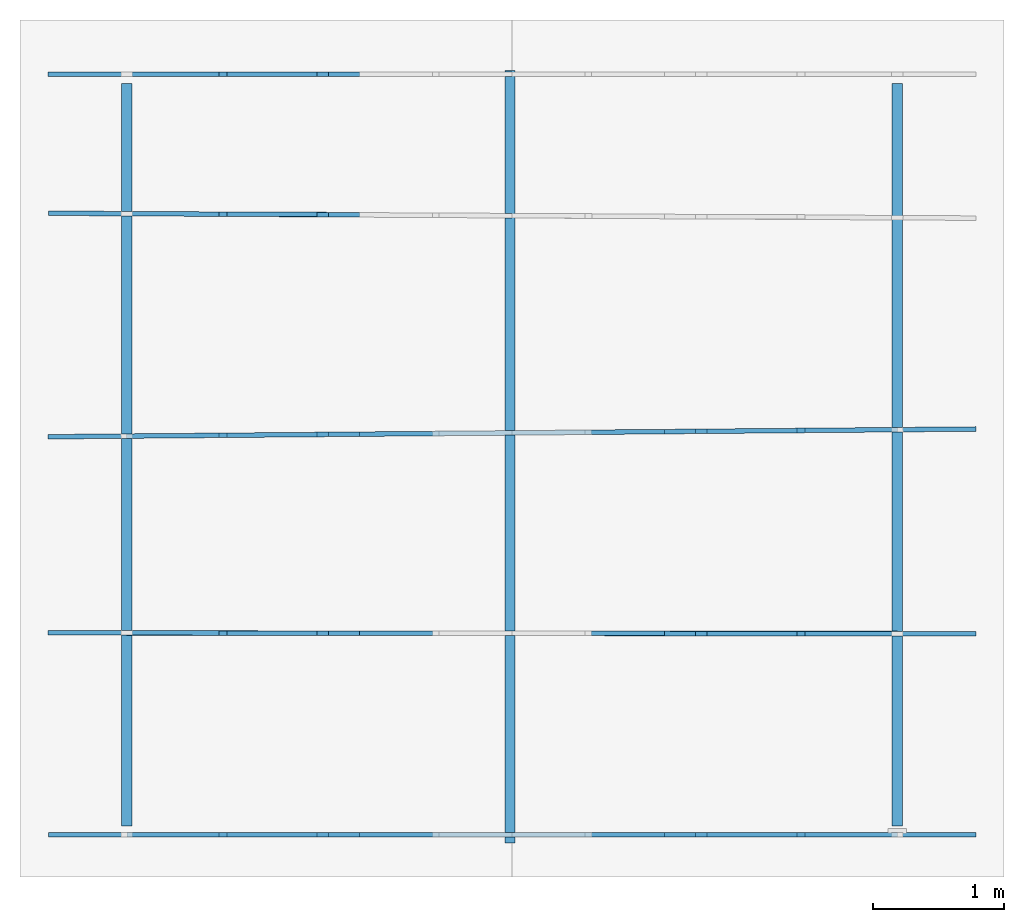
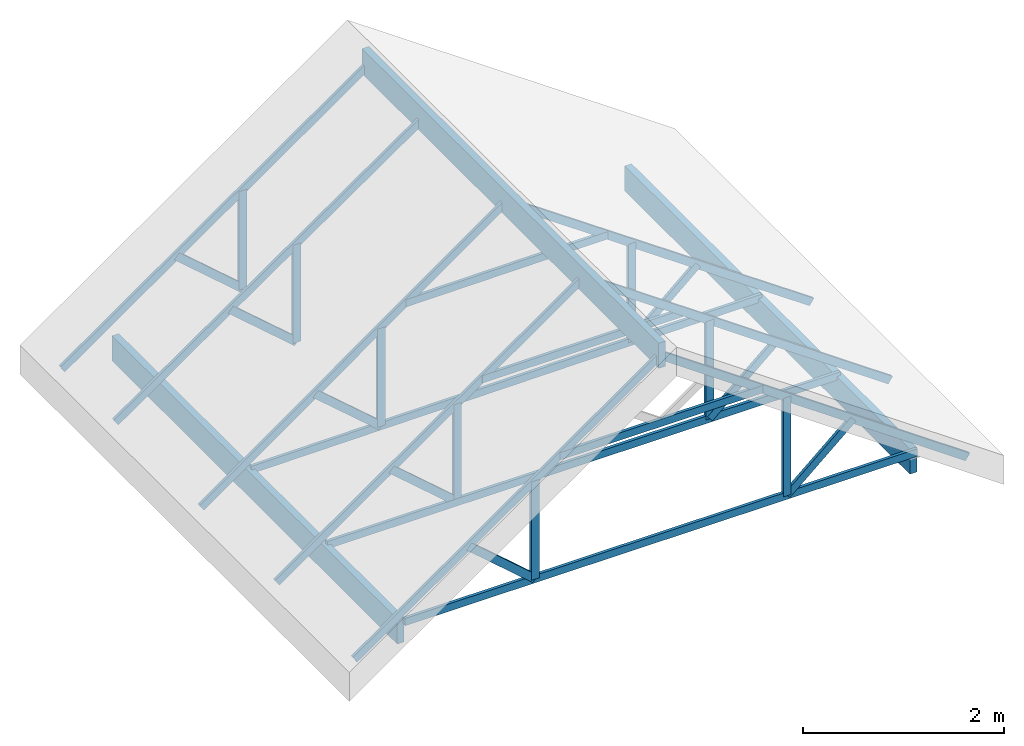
# One storey, part 1 of 2: 30 members, 3 beams, 5 elements without a shape of their own.
"""IFC2X3 building model written with IfcOpenShell, lengths in metres."""

from ifc_helpers import new_model, entity, si_unit, converted_unit, derived_unit, direction, frame, frame_2d, origin, origin_2d_with_axis, place, context, subcontext, project, spatial, rectangle, extrude, clip, halfspace, source, transform, mapped, material, material_list, type_object, type_shapes, element, aggregate, save


model = new_model("IFC2X3")

# Units and contexts
model_context = context("Model", 3, precision=1e-05, world=origin(), true_north=direction((6.123233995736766e-17, 1.0)))
body_context = subcontext(model_context, "Body", "Model", "MODEL_VIEW")
ifc_project = project(units=[si_unit("LENGTHUNIT", "METRE"), si_unit("AREAUNIT", "SQUARE_METRE"), converted_unit("PLANEANGLEUNIT", "DEGREE", entity("IfcPlaneAngleMeasure", 0.017453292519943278), si_unit("PLANEANGLEUNIT", "RADIAN"), dimensions=[0, 0, 0, 0, 0, 0, 0]), derived_unit("THERMALTRANSMITTANCEUNIT", [(si_unit("MASSUNIT", "GRAM", prefix="KILO"), 1), (si_unit("THERMODYNAMICTEMPERATUREUNIT", "KELVIN"), -1), (si_unit("TIMEUNIT", "SECOND"), -3)])], contexts=[model_context])

# Site, building, storey
site_placement = place(None, origin())
site = spatial("IfcSite", under=ifc_project, at=site_placement, Name="Default", CompositionType="ELEMENT")
building_placement = place(site_placement, origin())
building = spatial("IfcBuilding", under=site, at=building_placement, CompositionType="ELEMENT")
storey_placement = place(building_placement, frame((0.0, 0.0, 5.799999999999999)))
storey = spatial("IfcBuildingStorey", under=building, at=storey_placement, Name="Roof", CompositionType="ELEMENT", Elevation=5.799999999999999)

# Beam
ifc_material_1 = material(Name="Softwood, Lumber")
beam_type_1 = type_object("IfcBeamType", Name="M_Glulam-Western Species:79X305", PredefinedType="BEAM")
beam_1_placement = place(storey_placement, frame((0.5080759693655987, -2.205749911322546, 2.399999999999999), z_axis=(0.0, 0.0, 1.0), x_axis=(0.0, 1.0, 0.0)))
element("IfcBeam", 1, at=beam_1_placement, inside=storey, type_object=beam_type_1, material=ifc_material_1, Name="M_Glulam-Western Species:79X305", ObjectType="M_Glulam-Western Species:79X305", context=body_context, shape_type="SweptSolid", body=[
    extrude(rectangle(XDim=0.305, YDim=0.07900000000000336, at=frame_2d((0.0, -6.938893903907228e-17), x_axis=(1.0, 0.0))), frame((0.0, 0.0, -0.15250000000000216), z_axis=(1.0, 0.0, 0.0), x_axis=(0.0, 0.0, -1.0)), (0.0, 0.0, 1.0), 5.902651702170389),
])

# Assembly, members
assembly_1_placement = place(storey_placement, origin())
assembly_1 = element("IfcElementAssembly", 2, at=assembly_1_placement, inside=storey, Name="M_Truss_Common Truss Attic Room 1L+1R_1B:W35_TCH90_VW90_DW90_BCH90", ObjectType="M_Truss_Common Truss Attic Room 1L+1R_1B:W35_TCH90_VW90_DW90_BCH90", AssemblyPlace="NOTDEFINED", PredefinedType="TRUSS")
ifc_material_2 = material(Name="Timber - C20")
ifc_material_3 = material(Name="<Unnamed>")
ifc_material_list = material_list([ifc_material_3, ifc_material_2])
member_type_1 = type_object("IfcMemberType", Name="M_Truss_Wood Chord:35x90", PredefinedType="CHORD", material=ifc_material_list)
shared_shape_1 = source(origin(), body_context, "Body", "SweptSolid", [
    clip(extrude(rectangle(XDim=0.09000000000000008, YDim=0.03500000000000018, at=frame_2d((6.765421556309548e-17, 4.475586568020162e-16), x_axis=(0.0, 1.0))), frame((-2.9960931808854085, 0.8972701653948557, 5.543013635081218), z_axis=(0.819123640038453, 0.006821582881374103, 0.5735764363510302), x_axis=(-0.008327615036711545, 0.9999653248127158, 0.0)), (0.0, 0.0, 1.0), 4.327770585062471), halfspace(frame((0.5230759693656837, 0.9265774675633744, 8.062182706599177), z_axis=(0.9999653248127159, 0.008327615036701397, 0.0), x_axis=(0.008327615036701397, -0.9999653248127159, 0.0)), False)),
])
type_shapes(member_type_1, [shared_shape_1])
member_1_placement = place(assembly_1_placement, frame((0.0, 0.0, -5.799999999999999)))
member_1 = element("IfcMember", 3, at=member_1_placement, type_object=member_type_1, material=ifc_material_2, Name="M_Truss_Wood Chord:35x90", ObjectType="M_Truss_Wood Chord:35x90", context=body_context, shape_type="MappedRepresentation", body=[
    mapped(shared_shape_1, transform((0.0, 0.0, 0.0), scale=1.0)),
])
member_type_2 = type_object("IfcMemberType", Name="M_Truss_Wood Chord:35x90", PredefinedType="CHORD", material=ifc_material_list)
shared_shape_2 = source(origin(), body_context, "Body", "SweptSolid", [
    clip(extrude(rectangle(XDim=0.09000000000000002, YDim=0.03500000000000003, at=frame_2d((9.71445146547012e-17, -6.591949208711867e-17), x_axis=(1.0, 0.0))), frame((0.4972659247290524, 0.9263625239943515, 8.025320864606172), z_axis=(0.8191236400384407, 0.006821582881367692, -0.5735764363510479), x_axis=(-0.5735565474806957, -0.0047765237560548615, -0.8191520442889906)), (0.0, 0.0, 1.0), 4.3277705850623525), halfspace(frame((0.5230759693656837, 0.9265774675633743, 8.062182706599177), z_axis=(-0.9999653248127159, -0.008327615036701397, 0.0), x_axis=(0.008327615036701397, -0.9999653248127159, 0.0)), False)),
])
type_shapes(member_type_2, [shared_shape_2])
member_2_placement = place(assembly_1_placement, frame((0.0, 0.0, -5.799999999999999)))
member_2 = element("IfcMember", 4, at=member_2_placement, type_object=member_type_2, material=ifc_material_2, Name="M_Truss_Wood Chord:35x90", ObjectType="M_Truss_Wood Chord:35x90", context=body_context, shape_type="MappedRepresentation", body=[
    mapped(shared_shape_2, transform((0.0, 0.0, 0.0), scale=1.0)),
])
member_type_3 = type_object("IfcMemberType", Name="M_Truss_Wood Web:35x90", PredefinedType="BRACE", material=ifc_material_2)
shared_shape_3 = source(origin(), body_context, "Body", "SweptSolid", [
    extrude(rectangle(XDim=1.1942295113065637, YDim=0.035, at=origin_2d_with_axis()), frame((0.0, 0.0, -0.045)), (0.0, 0.0, 1.0), 0.08999999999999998),
])
type_shapes(member_type_3, [shared_shape_3])
member_3_placement = place(assembly_1_placement, frame((-0.9236139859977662, 0.9145295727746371, 0.5971147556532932), z_axis=(0.999965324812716, 0.00832761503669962, 0.0), x_axis=(0.0, 0.0, 1.0)))
member_3 = element("IfcMember", 5, at=member_3_placement, type_object=member_type_3, material=ifc_material_2, Name="M_Truss_Wood Web:35x90", ObjectType="M_Truss_Wood Web:35x90", context=body_context, shape_type="MappedRepresentation", body=[
    mapped(shared_shape_3, transform((0.0, 0.0, 0.0), scale=1.0)),
])
member_4_placement = place(assembly_1_placement, frame((1.9697659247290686, 0.9386253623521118, 0.5971147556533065), z_axis=(0.999965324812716, 0.00832761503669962, 0.0), x_axis=(0.0, 0.0, 1.0)))
member_4 = element("IfcMember", 6, at=member_4_placement, type_object=member_type_3, material=ifc_material_2, Name="M_Truss_Wood Web:35x90", ObjectType="M_Truss_Wood Web:35x90", context=body_context, shape_type="MappedRepresentation", body=[
    mapped(shared_shape_3, transform((0.0, 0.0, 0.0), scale=1.0)),
])

assembly_2_placement = place(storey_placement, origin())
assembly_2 = element("IfcElementAssembly", 7, at=assembly_2_placement, inside=storey, Name="M_Truss_Common Truss Attic Room 1L+1R_1B:W35_TCH90_VW90_DW90_BCH90", ObjectType="M_Truss_Common Truss Attic Room 1L+1R_1B:W35_TCH90_VW90_DW90_BCH90", AssemblyPlace="NOTDEFINED", PredefinedType="TRUSS")
member_type_4 = type_object("IfcMemberType", Name="M_Truss_Wood Chord:35x90", PredefinedType="CHORD", material=ifc_material_list)
shared_shape_4 = source(origin(), body_context, "Body", "SweptSolid", [
    clip(extrude(rectangle(XDim=0.09000000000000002, YDim=0.03500000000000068, at=frame_2d((0.0, 0.0), x_axis=(0.0, 1.0))), frame((-2.9951051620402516, 2.6050693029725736, 5.543013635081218), z_axis=(0.8191407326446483, -0.004304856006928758, 0.5735764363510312), x_axis=(0.005255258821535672, 0.9999861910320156, 0.0)), (0.0, 0.0, 1.0), 4.327085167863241), halfspace(frame((0.5235759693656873, 2.5865774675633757, 8.061789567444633), z_axis=(0.9999861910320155, -0.005255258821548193, 0.0), x_axis=(0.005255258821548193, 0.9999861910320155, 0.0)), False)),
])
type_shapes(member_type_4, [shared_shape_4])
member_5_placement = place(assembly_2_placement, frame((0.0, 0.0, -5.799999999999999)))
member_5 = element("IfcMember", 8, at=member_5_placement, type_object=member_type_4, material=ifc_material_2, Name="M_Truss_Wood Chord:35x90", ObjectType="M_Truss_Wood Chord:35x90", context=body_context, shape_type="MappedRepresentation", body=[
    mapped(shared_shape_4, transform((0.0, 0.0, 0.0), scale=1.0)),
])
member_type_5 = type_object("IfcMemberType", Name="M_Truss_Wood Web:35x90", PredefinedType="BRACE", material=ifc_material_2)
shared_shape_5 = source(origin(), body_context, "Body", "SweptSolid", [
    extrude(rectangle(XDim=1.194032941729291, YDim=0.035, at=origin_2d_with_axis()), frame((0.0, 0.0, -0.045)), (0.0, 0.0, 1.0), 0.08999999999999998),
])
type_shapes(member_type_5, [shared_shape_5])
member_6_placement = place(assembly_2_placement, frame((-0.9228634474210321, 2.5941789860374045, 0.5970164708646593), z_axis=(0.9999861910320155, -0.0052552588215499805, 0.0), x_axis=(0.0, 0.0, 1.0)))
member_6 = element("IfcMember", 9, at=member_6_placement, type_object=member_type_5, material=ifc_material_2, Name="M_Truss_Wood Web:35x90", ObjectType="M_Truss_Wood Web:35x90", context=body_context, shape_type="MappedRepresentation", body=[
    mapped(shared_shape_5, transform((0.0, 0.0, 0.0), scale=1.0)),
])

assembly_3_placement = place(storey_placement, origin())
assembly_3 = element("IfcElementAssembly", 10, at=assembly_3_placement, inside=storey, Name="M_Truss_Common Truss Attic Room 1L+1R_1B:W35_TCH90_VW90_DW90_BCH90", ObjectType="M_Truss_Common Truss Attic Room 1L+1R_1B:W35_TCH90_VW90_DW90_BCH90", AssemblyPlace="NOTDEFINED", PredefinedType="TRUSS")
member_type_6 = type_object("IfcMemberType", Name="M_Truss_Wood Chord:35x90", PredefinedType="CHORD", material=ifc_material_list)
shared_shape_6 = source(origin(), body_context, "Body", "SweptSolid", [
    clip(extrude(rectangle(XDim=0.09000000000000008, YDim=0.03499999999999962, at=frame_2d((-5.412337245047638e-16, 1.5265566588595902e-16), x_axis=(0.0, 1.0))), frame((-2.996113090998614, 3.667051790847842, 5.543013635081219), z_axis=(0.8191520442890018, 0.0, 0.5735764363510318), x_axis=(0.0, -1.0, 0.0)), (0.0, 0.0, 1.0), 4.327645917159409), halfspace(frame((0.5230759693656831, 3.667051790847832, 8.062111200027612), z_axis=(1.0, 0.0, 0.0), x_axis=(0.0, -1.0, 0.0)), False)),
])
type_shapes(member_type_6, [shared_shape_6])
member_7_placement = place(assembly_3_placement, frame((0.0, 0.0, -5.799999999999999)))
member_7 = element("IfcMember", 11, at=member_7_placement, type_object=member_type_6, material=ifc_material_2, Name="M_Truss_Wood Chord:35x90", ObjectType="M_Truss_Wood Chord:35x90", context=body_context, shape_type="MappedRepresentation", body=[
    mapped(shared_shape_6, transform((0.0, 0.0, 0.0), scale=1.0)),
])
member_type_7 = type_object("IfcMemberType", Name="M_Truss_Wood Web:35x90", PredefinedType="BRACE", material=ifc_material_2)
shared_shape_7 = source(origin(), body_context, "Body", "SweptSolid", [
    extrude(rectangle(XDim=1.1941937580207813, YDim=0.035, at=origin_2d_with_axis()), frame((0.0, 0.0, -0.045)), (0.0, 0.0, 1.0), 0.08999999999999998),
])
type_shapes(member_type_7, [shared_shape_7])
member_8_placement = place(assembly_3_placement, frame((-0.9236130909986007, 3.667051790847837, 0.5970968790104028), z_axis=(1.0, 0.0, 0.0), x_axis=(0.0, 0.0, 1.0)))
member_8 = element("IfcMember", 12, at=member_8_placement, type_object=member_type_7, material=ifc_material_2, Name="M_Truss_Wood Web:35x90", ObjectType="M_Truss_Wood Web:35x90", context=body_context, shape_type="MappedRepresentation", body=[
    mapped(shared_shape_7, transform((0.0, 0.0, 0.0), scale=1.0)),
])

# Beams
beam_type_2 = type_object("IfcBeamType", Name="M_Glulam-Western Species:79X305", PredefinedType="NOTDEFINED")
beam_2_placement = place(storey_placement, frame((3.4680759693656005, -2.1457499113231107, 0.0), z_axis=(0.0, 0.0, 1.0), x_axis=(0.0, 1.0, 0.0)))
element("IfcBeam", 13, at=beam_2_placement, inside=storey, type_object=beam_type_2, material=ifc_material_1, Name="M_Glulam-Western Species:79X305", ObjectType="M_Glulam-Western Species:79X305", context=body_context, shape_type="SweptSolid", body=[
    extrude(rectangle(XDim=0.305, YDim=0.07900000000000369, at=frame_2d((0.0, -2.706168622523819e-16), x_axis=(1.0, 0.0))), frame((0.06985000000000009, 0.0, -0.15250000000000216), z_axis=(1.0, 0.0, 0.0), x_axis=(0.0, 0.0, -1.0)), (0.0, 0.0, 1.0), 5.673101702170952),
])
beam_3_placement = place(storey_placement, frame((-2.4209240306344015, -2.14574991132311, 0.0), z_axis=(0.0, 0.0, 1.0), x_axis=(0.0, 1.0, 0.0)))
element("IfcBeam", 14, at=beam_3_placement, inside=storey, type_object=beam_type_2, material=ifc_material_1, Name="M_Glulam-Western Species:79X305", ObjectType="M_Glulam-Western Species:79X305", context=body_context, shape_type="SweptSolid", body=[
    extrude(rectangle(XDim=0.30499999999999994, YDim=0.07900000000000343, at=frame_2d((0.0, -1.3530843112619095e-16), x_axis=(1.0, 0.0))), frame((0.06984999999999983, 0.0, -0.15250000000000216), z_axis=(1.0, 0.0, 0.0), x_axis=(0.0, 0.0, -1.0)), (0.0, 0.0, 1.0), 5.673101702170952),
])

# Assembly, members
assembly_4_placement = place(storey_placement, origin())
assembly_4 = element("IfcElementAssembly", 15, at=assembly_4_placement, inside=storey, Name="M_Truss_Common Truss Attic Room 1L+1R_1B:W35_TCH90_VW90_DW90_BCH90", ObjectType="M_Truss_Common Truss Attic Room 1L+1R_1B:W35_TCH90_VW90_DW90_BCH90", AssemblyPlace="NOTDEFINED", PredefinedType="TRUSS")
member_type_8 = type_object("IfcMemberType", Name="M_Truss_Wood Chord:35x90", PredefinedType="CHORD", material=ifc_material_list)
shared_shape_8 = source(origin(), body_context, "Body", "SweptSolid", [
    clip(extrude(rectangle(XDim=0.09000000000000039, YDim=0.03499999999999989, at=frame_2d((1.3530843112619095e-16, 1.1969591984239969e-15), x_axis=(0.0, 1.0))), frame((-2.9951130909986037, -2.14574991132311, 5.543013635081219), z_axis=(0.8191520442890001, 0.0, 0.5735764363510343), x_axis=(0.0, -1.0, 0.0)), (0.0, 0.0, 1.0), 4.327035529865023), halfspace(frame((0.5235759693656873, -2.1457499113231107, 8.061761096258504), z_axis=(1.0, 0.0, 0.0), x_axis=(0.0, -1.0, 0.0)), False)),
])
type_shapes(member_type_8, [shared_shape_8])
member_9_placement = place(assembly_4_placement, frame((0.0, 0.0, -5.799999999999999)))
member_9 = element("IfcMember", 16, at=member_9_placement, type_object=member_type_8, material=ifc_material_2, Name="M_Truss_Wood Chord:35x90", ObjectType="M_Truss_Wood Chord:35x90", context=body_context, shape_type="MappedRepresentation", body=[
    mapped(shared_shape_8, transform((0.0, 0.0, 0.0), scale=1.0)),
])
member_type_9 = type_object("IfcMemberType", Name="M_Truss_Wood Chord:35x90", PredefinedType="CHORD", material=ifc_material_list)
shared_shape_9 = source(origin(), body_context, "Body", "SweptSolid", [
    clip(extrude(rectangle(XDim=0.09000000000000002, YDim=0.03499999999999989, at=frame_2d((1.3530843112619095e-16, 6.140921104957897e-16), x_axis=(0.0, 1.0))), frame((0.4977650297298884, -2.1457499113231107, 8.024899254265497), z_axis=(0.8191520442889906, 0.0, -0.573576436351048), x_axis=(0.0, 1.0, 0.0)), (0.0, 0.0, 1.0), 4.327035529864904), halfspace(frame((0.5235759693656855, -2.14574991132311, 8.061761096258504), z_axis=(-1.0, 0.0, 0.0), x_axis=(0.0, 1.0, 0.0)), False)),
])
type_shapes(member_type_9, [shared_shape_9])
member_10_placement = place(assembly_4_placement, frame((0.0, 0.0, -5.799999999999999)))
member_10 = element("IfcMember", 17, at=member_10_placement, type_object=member_type_9, material=ifc_material_2, Name="M_Truss_Wood Chord:35x90", ObjectType="M_Truss_Wood Chord:35x90", context=body_context, shape_type="MappedRepresentation", body=[
    mapped(shared_shape_9, transform((0.0, 0.0, 0.0), scale=1.0)),
])
member_type_10 = type_object("IfcMemberType", Name="M_Truss_Wood Chord:35x90", PredefinedType="CHORD", material=ifc_material_2)
shared_shape_10 = source(origin(), body_context, "Body", "SweptSolid", [
    extrude(rectangle(XDim=5.888999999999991, YDim=0.035, at=frame_2d((0.0, -1.734723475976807e-18), x_axis=(1.0, 0.0))), frame((0.0, 0.0, -0.04500000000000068)), (0.0, 0.0, 1.0), 0.09),
])
type_shapes(member_type_10, [shared_shape_10])
member_11_placement = place(assembly_4_placement, frame((0.5235759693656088, -2.14574991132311, 0.0)))
member_11 = element("IfcMember", 18, at=member_11_placement, type_object=member_type_10, material=ifc_material_2, Name="M_Truss_Wood Chord:35x90", ObjectType="M_Truss_Wood Chord:35x90", context=body_context, shape_type="MappedRepresentation", body=[
    mapped(shared_shape_10, transform((0.0, 0.0, 0.0), scale=1.0)),
])
member_type_11 = type_object("IfcMemberType", Name="M_Truss_Wood Chord:35x90", PredefinedType="CHORD", material=ifc_material_2)
shared_shape_11 = source(origin(), body_context, "Body", "SweptSolid", [
    extrude(rectangle(XDim=2.333097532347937, YDim=0.035, at=origin_2d_with_axis()), frame((0.0, 0.0, -0.04500000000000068)), (0.0, 0.0, 1.0), 0.09),
])
type_shapes(member_type_11, [shared_shape_11])
member_12_placement = place(assembly_4_placement, frame((0.5235759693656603, -2.14574991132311, 1.3900000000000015)))
member_12 = element("IfcMember", 19, at=member_12_placement, type_object=member_type_11, material=ifc_material_2, Name="M_Truss_Wood Chord:35x90", ObjectType="M_Truss_Wood Chord:35x90", context=body_context, shape_type="MappedRepresentation", body=[
    mapped(shared_shape_11, transform((0.0, 0.0, 0.0), scale=1.0)),
])
member_type_12 = type_object("IfcMemberType", Name="M_Truss_Wood Web:35x90", PredefinedType="BRACE", material=ifc_material_2)
shared_shape_12 = source(origin(), body_context, "Body", "SweptSolid", [
    extrude(rectangle(XDim=1.1940187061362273, YDim=0.035, at=origin_2d_with_axis()), frame((0.0, 0.0, -0.045)), (0.0, 0.0, 1.0), 0.08999999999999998),
])
type_shapes(member_type_12, [shared_shape_12])
member_13_placement = place(assembly_4_placement, frame((-0.9228630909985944, -2.14574991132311, 0.5970093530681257), z_axis=(1.0, 0.0, 0.0), x_axis=(0.0, 0.0, 1.0)))
member_13 = element("IfcMember", 20, at=member_13_placement, type_object=member_type_12, material=ifc_material_2, Name="M_Truss_Wood Web:35x90", ObjectType="M_Truss_Wood Web:35x90", context=body_context, shape_type="MappedRepresentation", body=[
    mapped(shared_shape_12, transform((0.0, 0.0, 0.0), scale=1.0)),
])
member_14_placement = place(assembly_4_placement, frame((1.9700150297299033, -2.1457499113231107, 0.5970093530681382), z_axis=(1.0, 0.0, 0.0), x_axis=(0.0, 0.0, 1.0)))
member_14 = element("IfcMember", 21, at=member_14_placement, type_object=member_type_12, material=ifc_material_2, Name="M_Truss_Wood Web:35x90", ObjectType="M_Truss_Wood Web:35x90", context=body_context, shape_type="MappedRepresentation", body=[
    mapped(shared_shape_12, transform((0.0, 0.0, 0.0), scale=1.0)),
])
member_type_13 = type_object("IfcMemberType", Name="M_Truss_Wood Web:35x90", PredefinedType="BRACE", material=ifc_material_2)
shared_shape_13 = source(origin(), body_context, "Body", "SweptSolid", [
    extrude(rectangle(XDim=1.0083718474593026, YDim=0.035, at=origin_2d_with_axis()), frame((0.0, 0.0, -0.045)), (0.0, 0.0, 1.0), 0.08999999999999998),
])
type_shapes(member_type_13, [shared_shape_13])
member_15_placement = place(assembly_4_placement, frame((-1.3038310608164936, -2.14574991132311, 0.33025270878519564), z_axis=(-0.6550216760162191, 0.0, -0.7556100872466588), x_axis=(0.7556100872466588, 0.0, -0.6550216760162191)))
member_15 = element("IfcMember", 22, at=member_15_placement, type_object=member_type_13, material=ifc_material_2, Name="M_Truss_Wood Web:35x90", ObjectType="M_Truss_Wood Web:35x90", context=body_context, shape_type="MappedRepresentation", body=[
    mapped(shared_shape_13, transform((0.0, 0.0, 0.0), scale=1.0)),
])
member_type_14 = type_object("IfcMemberType", Name="M_Truss_Wood Web:35x90", PredefinedType="BRACE", material=ifc_material_2)
shared_shape_14 = source(origin(), body_context, "Body", "SweptSolid", [
    extrude(rectangle(XDim=1.008371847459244, YDim=0.035, at=origin_2d_with_axis()), frame((0.0, 0.0, -0.045)), (0.0, 0.0, 1.0), 0.08999999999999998),
])
type_shapes(member_type_14, [shared_shape_14])
member_16_placement = place(assembly_4_placement, frame((2.3509829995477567, -2.1457499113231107, 0.3302527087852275), z_axis=(0.6550216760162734, 0.0, -0.7556100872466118), x_axis=(0.7556100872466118, 0.0, 0.6550216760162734)))
member_16 = element("IfcMember", 23, at=member_16_placement, type_object=member_type_14, material=ifc_material_2, Name="M_Truss_Wood Web:35x90", ObjectType="M_Truss_Wood Web:35x90", context=body_context, shape_type="MappedRepresentation", body=[
    mapped(shared_shape_14, transform((0.0, 0.0, 0.0), scale=1.0)),
])
aggregate(assembly_4, [member_9, member_10, member_11, member_12, member_13, member_14, member_15, member_16])

# Member
member_type_15 = type_object("IfcMemberType", Name="M_Truss_Wood Web:35x90", PredefinedType="BRACE", material=ifc_material_2)
shared_shape_15 = source(origin(), body_context, "Body", "SweptSolid", [
    extrude(rectangle(XDim=1.008523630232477, YDim=0.035, at=origin_2d_with_axis()), frame((0.0, 0.0, -0.045)), (0.0, 0.0, 1.0), 0.08999999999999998),
])
type_shapes(member_type_15, [shared_shape_15])
member_17_placement = place(assembly_3_placement, frame((-1.304643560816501, 3.6670517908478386, 0.33029647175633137), z_axis=(-0.6550098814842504, 0.0, -0.7556203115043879), x_axis=(0.7556203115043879, 0.0, -0.6550098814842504)))
member_17 = element("IfcMember", 24, at=member_17_placement, type_object=member_type_15, material=ifc_material_2, Name="M_Truss_Wood Web:35x90", ObjectType="M_Truss_Wood Web:35x90", context=body_context, shape_type="MappedRepresentation", body=[
    mapped(shared_shape_15, transform((0.0, 0.0, 0.0), scale=1.0)),
])

aggregate(assembly_3, [member_7, member_8, member_17])

member_type_16 = type_object("IfcMemberType", Name="M_Truss_Wood Web:35x90", PredefinedType="BRACE", material=ifc_material_2)
shared_shape_16 = source(origin(), body_context, "Body", "SweptSolid", [
    extrude(rectangle(XDim=1.008384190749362, YDim=0.035, at=origin_2d_with_axis()), frame((0.0, 0.0, -0.045)), (0.0, 0.0, 1.0), 0.08999999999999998),
])
type_shapes(member_type_16, [shared_shape_16])
member_18_placement = place(assembly_2_placement, frame((-1.3038312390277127, 2.5961810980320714, 0.33025626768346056), z_axis=(-0.6550155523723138, 0.0, -0.7556153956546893), x_axis=(0.7556153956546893, 0.0, -0.6550155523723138)))
member_18 = element("IfcMember", 25, at=member_18_placement, type_object=member_type_16, material=ifc_material_2, Name="M_Truss_Wood Web:35x90", ObjectType="M_Truss_Wood Web:35x90", context=body_context, shape_type="MappedRepresentation", body=[
    mapped(shared_shape_16, transform((0.0, 0.0, 0.0), scale=1.0)),
])

aggregate(assembly_2, [member_5, member_6, member_18])

member_type_17 = type_object("IfcMemberType", Name="M_Truss_Wood Web:35x90", PredefinedType="BRACE", material=ifc_material_2)
shared_shape_17 = source(origin(), body_context, "Body", "SweptSolid", [
    extrude(rectangle(XDim=1.0085546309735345, YDim=0.035, at=origin_2d_with_axis()), frame((0.0, 0.0, -0.045)), (0.0, 0.0, 1.0), 0.08999999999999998),
])
type_shapes(member_type_17, [shared_shape_17])
member_19_placement = place(assembly_1_placement, frame((2.3507959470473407, 0.9417985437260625, 0.3303054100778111), z_axis=(0.6549847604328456, 0.005454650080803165, -0.7556223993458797), x_axis=(0.7555961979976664, 0.006292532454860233, 0.6550074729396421)))
member_19 = element("IfcMember", 26, at=member_19_placement, type_object=member_type_17, material=ifc_material_2, Name="M_Truss_Wood Web:35x90", ObjectType="M_Truss_Wood Web:35x90", context=body_context, shape_type="MappedRepresentation", body=[
    mapped(shared_shape_17, transform((0.0, 0.0, 0.0), scale=1.0)),
])

member_type_18 = type_object("IfcMemberType", Name="M_Truss_Wood Chord:35x90", PredefinedType="CHORD", material=ifc_material_2)
shared_shape_18 = source(origin(), body_context, "Body", "SweptSolid", [
    extrude(rectangle(XDim=5.890204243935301, YDim=0.035, at=origin_2d_with_axis()), frame((0.0, 0.0, -0.04500000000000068)), (0.0, 0.0, 1.0), 0.09),
])
type_shapes(member_type_18, [shared_shape_18])
member_20_placement = place(assembly_1_placement, frame((0.5230759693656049, 0.9265774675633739, 0.0), z_axis=(0.0, 0.0, 1.0), x_axis=(0.9999653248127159, 0.008327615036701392, 0.0)))
member_20 = element("IfcMember", 27, at=member_20_placement, type_object=member_type_18, material=ifc_material_2, Name="M_Truss_Wood Chord:35x90", ObjectType="M_Truss_Wood Chord:35x90", context=body_context, shape_type="MappedRepresentation", body=[
    mapped(shared_shape_18, transform((0.0, 0.0, 0.0), scale=1.0)),
])

member_type_19 = type_object("IfcMemberType", Name="M_Truss_Wood Web:35x90", PredefinedType="BRACE", material=ifc_material_2)
shared_shape_19 = source(origin(), body_context, "Body", "SweptSolid", [
    extrude(rectangle(XDim=1.008554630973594, YDim=0.035, at=origin_2d_with_axis()), frame((0.0, 0.0, -0.045)), (0.0, 0.0, 1.0), 0.08999999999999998),
])
type_shapes(member_type_19, [shared_shape_19])
member_21_placement = place(assembly_1_placement, frame((-1.3046440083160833, 0.9113563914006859, 0.3303054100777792), z_axis=(-0.6549847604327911, -0.005454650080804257, -0.7556223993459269), x_axis=(0.7555961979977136, 0.00629253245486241, -0.6550074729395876)))
member_21 = element("IfcMember", 28, at=member_21_placement, type_object=member_type_19, material=ifc_material_2, Name="M_Truss_Wood Web:35x90", ObjectType="M_Truss_Wood Web:35x90", context=body_context, shape_type="MappedRepresentation", body=[
    mapped(shared_shape_19, transform((0.0, 0.0, 0.0), scale=1.0)),
])

member_type_20 = type_object("IfcMemberType", Name="M_Truss_Wood Chord:35x90", PredefinedType="CHORD", material=ifc_material_2)
shared_shape_20 = source(origin(), body_context, "Body", "SweptSolid", [
    extrude(rectangle(XDim=2.334301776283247, YDim=0.034999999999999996, at=frame_2d((0.0, 3.469446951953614e-18), x_axis=(1.0, 0.0))), frame((0.0, 0.0, -0.04500000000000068)), (0.0, 0.0, 1.0), 0.09),
])
type_shapes(member_type_20, [shared_shape_20])
member_22_placement = place(assembly_1_placement, frame((0.5230759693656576, 0.9265774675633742, 1.3900000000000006), z_axis=(0.0, 0.0, 1.0), x_axis=(0.9999653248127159, 0.008327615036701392, 0.0)))
member_22 = element("IfcMember", 29, at=member_22_placement, type_object=member_type_20, material=ifc_material_2, Name="M_Truss_Wood Chord:35x90", ObjectType="M_Truss_Wood Chord:35x90", context=body_context, shape_type="MappedRepresentation", body=[
    mapped(shared_shape_20, transform((0.0, 0.0, 0.0), scale=1.0)),
])

aggregate(assembly_1, [member_1, member_2, member_3, member_4, member_19, member_20, member_21, member_22])

# Assembly, members
assembly_5_placement = place(storey_placement, origin())
assembly_5 = element("IfcElementAssembly", 30, at=assembly_5_placement, inside=storey, Name="M_Truss_Common Truss Attic Room 1L+1R_1B:W35_TCH90_VW90_DW90_BCH90", ObjectType="M_Truss_Common Truss Attic Room 1L+1R_1B:W35_TCH90_VW90_DW90_BCH90", AssemblyPlace="NOTDEFINED", PredefinedType="TRUSS")
member_type_21 = type_object("IfcMemberType", Name="M_Truss_Wood Chord:35x90", PredefinedType="CHORD", material=ifc_material_list)
shared_shape_21 = source(origin(), body_context, "Body", "SweptSolid", [
    clip(extrude(rectangle(XDim=0.08999999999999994, YDim=0.03500000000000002, at=frame_2d((0.0, 0.0), x_axis=(0.0, 1.0))), frame((-2.996112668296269, -0.6010531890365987, 5.543013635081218), z_axis=(0.8191514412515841, -0.0009939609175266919, 0.57357643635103), x_axis=(0.00121340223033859, 0.9999992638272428, 0.0)), (0.0, 0.0, 1.0), 4.327648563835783), halfspace(frame((0.5230759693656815, -0.6053233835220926, 8.062112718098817), z_axis=(0.9999992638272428, -0.001213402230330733, 0.0), x_axis=(-0.001213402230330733, -0.9999992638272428, 0.0)), False)),
])
type_shapes(member_type_21, [shared_shape_21])
member_23_placement = place(assembly_5_placement, frame((0.0, 0.0, -5.799999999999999)))
member_23 = element("IfcMember", 31, at=member_23_placement, type_object=member_type_21, material=ifc_material_2, Name="M_Truss_Wood Chord:35x90", ObjectType="M_Truss_Wood Chord:35x90", context=body_context, shape_type="MappedRepresentation", body=[
    mapped(shared_shape_21, transform((0.0, 0.0, 0.0), scale=1.0)),
])
member_type_22 = type_object("IfcMemberType", Name="M_Truss_Wood Chord:35x90", PredefinedType="CHORD", material=ifc_material_list)
shared_shape_22 = source(origin(), body_context, "Body", "SweptSolid", [
    clip(extrude(rectangle(XDim=0.09000000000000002, YDim=0.03499999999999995, at=frame_2d((-5.585809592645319e-16, 3.2959746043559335e-17), x_axis=(1.0, 0.0))), frame((0.497265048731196, -0.605292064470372, 8.02525087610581), z_axis=(0.8191514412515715, -0.0009939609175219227, -0.5735764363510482), x_axis=(-0.5735760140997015, 0.0006959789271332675, -0.8191520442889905)), (0.0, 0.0, 1.0), 4.327648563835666), halfspace(frame((0.5230759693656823, -0.6053233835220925, 8.062112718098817), z_axis=(-0.9999992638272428, 0.001213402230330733, 0.0), x_axis=(0.001213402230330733, 0.9999992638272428, 0.0)), False)),
])
type_shapes(member_type_22, [shared_shape_22])
member_24_placement = place(assembly_5_placement, frame((0.0, 0.0, -5.799999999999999)))
member_24 = element("IfcMember", 32, at=member_24_placement, type_object=member_type_22, material=ifc_material_2, Name="M_Truss_Wood Chord:35x90", ObjectType="M_Truss_Wood Chord:35x90", context=body_context, shape_type="MappedRepresentation", body=[
    mapped(shared_shape_22, transform((0.0, 0.0, 0.0), scale=1.0)),
])
member_type_23 = type_object("IfcMemberType", Name="M_Truss_Wood Web:35x90", PredefinedType="BRACE", material=ifc_material_2)
shared_shape_23 = source(origin(), body_context, "Body", "SweptSolid", [
    extrude(rectangle(XDim=1.1941945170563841, YDim=0.035, at=origin_2d_with_axis()), frame((0.0, 0.0, -0.045)), (0.0, 0.0, 1.0), 0.08999999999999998),
])
type_shapes(member_type_23, [shared_shape_23])
member_25_placement = place(assembly_5_placement, frame((-0.923613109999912, -0.603567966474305, 0.597097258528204), z_axis=(1.0, 0.0, 0.0), x_axis=(0.0, 0.0, 1.0)))
member_25 = element("IfcMember", 33, at=member_25_placement, type_object=member_type_23, material=ifc_material_2, Name="M_Truss_Wood Web:35x90", ObjectType="M_Truss_Wood Web:35x90", context=body_context, shape_type="MappedRepresentation", body=[
    mapped(shared_shape_23, transform((0.0, 0.0, 0.0), scale=1.0)),
])
member_26_placement = place(assembly_5_placement, frame((1.9697650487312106, -0.6070788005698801, 0.5970972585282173), z_axis=(1.0, 0.0, 0.0), x_axis=(0.0, 0.0, 1.0)))
member_26 = element("IfcMember", 34, at=member_26_placement, type_object=member_type_23, material=ifc_material_2, Name="M_Truss_Wood Web:35x90", ObjectType="M_Truss_Wood Web:35x90", context=body_context, shape_type="MappedRepresentation", body=[
    mapped(shared_shape_23, transform((0.0, 0.0, 0.0), scale=1.0)),
])
member_type_24 = type_object("IfcMemberType", Name="M_Truss_Wood Web:35x90", PredefinedType="BRACE", material=ifc_material_2)
shared_shape_24 = source(origin(), body_context, "Body", "SweptSolid", [
    extrude(rectangle(XDim=1.008524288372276, YDim=0.035, at=origin_2d_with_axis()), frame((0.0, 0.0, -0.045)), (0.0, 0.0, 1.0), 0.08999999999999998),
])
type_shapes(member_type_24, [shared_shape_24])
member_27_placement = place(assembly_5_placement, frame((2.3507955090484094, -0.6075411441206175, 0.3302966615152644), z_axis=(0.6550095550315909, 0.0, -0.7556205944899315), x_axis=(0.7556205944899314, 0.0, 0.6550095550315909)))
member_27 = element("IfcMember", 35, at=member_27_placement, type_object=member_type_24, material=ifc_material_2, Name="M_Truss_Wood Web:35x90", ObjectType="M_Truss_Wood Web:35x90", context=body_context, shape_type="MappedRepresentation", body=[
    mapped(shared_shape_24, transform((0.0, 0.0, 0.0), scale=1.0)),
])
member_type_25 = type_object("IfcMemberType", Name="M_Truss_Wood Chord:35x90", PredefinedType="CHORD", material=ifc_material_2)
shared_shape_25 = source(origin(), body_context, "Body", "SweptSolid", [
    extrude(rectangle(XDim=5.890004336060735, YDim=0.035, at=origin_2d_with_axis()), frame((0.0, 0.0, -0.04500000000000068)), (0.0, 0.0, 1.0), 0.09),
])
type_shapes(member_type_25, [shared_shape_25])
member_28_placement = place(assembly_5_placement, frame((0.5230759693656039, -0.6053233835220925, 0.0)))
member_28 = element("IfcMember", 36, at=member_28_placement, type_object=member_type_25, material=ifc_material_2, Name="M_Truss_Wood Chord:35x90", ObjectType="M_Truss_Wood Chord:35x90", context=body_context, shape_type="MappedRepresentation", body=[
    mapped(shared_shape_25, transform((0.0, 0.0, 0.0), scale=1.0)),
])
member_type_26 = type_object("IfcMemberType", Name="M_Truss_Wood Web:35x90", PredefinedType="BRACE", material=ifc_material_2)
shared_shape_26 = source(origin(), body_context, "Body", "SweptSolid", [
    extrude(rectangle(XDim=1.0085242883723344, YDim=0.035, at=origin_2d_with_axis()), frame((0.0, 0.0, -0.045)), (0.0, 0.0, 1.0), 0.08999999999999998),
])
type_shapes(member_type_26, [shared_shape_26])
member_29_placement = place(assembly_5_placement, frame((-1.304643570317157, -0.6031056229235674, 0.3302966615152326), z_axis=(-0.6550095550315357, 0.0, -0.7556205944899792), x_axis=(0.7556205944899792, 0.0, -0.6550095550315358)))
member_29 = element("IfcMember", 37, at=member_29_placement, type_object=member_type_26, material=ifc_material_2, Name="M_Truss_Wood Web:35x90", ObjectType="M_Truss_Wood Web:35x90", context=body_context, shape_type="MappedRepresentation", body=[
    mapped(shared_shape_26, transform((0.0, 0.0, 0.0), scale=1.0)),
])
member_type_27 = type_object("IfcMemberType", Name="M_Truss_Wood Chord:35x90", PredefinedType="CHORD", material=ifc_material_2)
shared_shape_27 = source(origin(), body_context, "Body", "SweptSolid", [
    extrude(rectangle(XDim=2.3341018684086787, YDim=0.035, at=frame_2d((-1.1102230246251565e-16, 0.0), x_axis=(1.0, 0.0))), frame((0.0, 0.0, -0.04500000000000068)), (0.0, 0.0, 1.0), 0.09),
])
type_shapes(member_type_27, [shared_shape_27])
member_30_placement = place(assembly_5_placement, frame((0.5230759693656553, -0.6053233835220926, 1.3900000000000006)))
member_30 = element("IfcMember", 38, at=member_30_placement, type_object=member_type_27, material=ifc_material_2, Name="M_Truss_Wood Chord:35x90", ObjectType="M_Truss_Wood Chord:35x90", context=body_context, shape_type="MappedRepresentation", body=[
    mapped(shared_shape_27, transform((0.0, 0.0, 0.0), scale=1.0)),
])
aggregate(assembly_5, [member_23, member_24, member_25, member_26, member_27, member_28, member_29, member_30])

save(model, "model.ifc")
